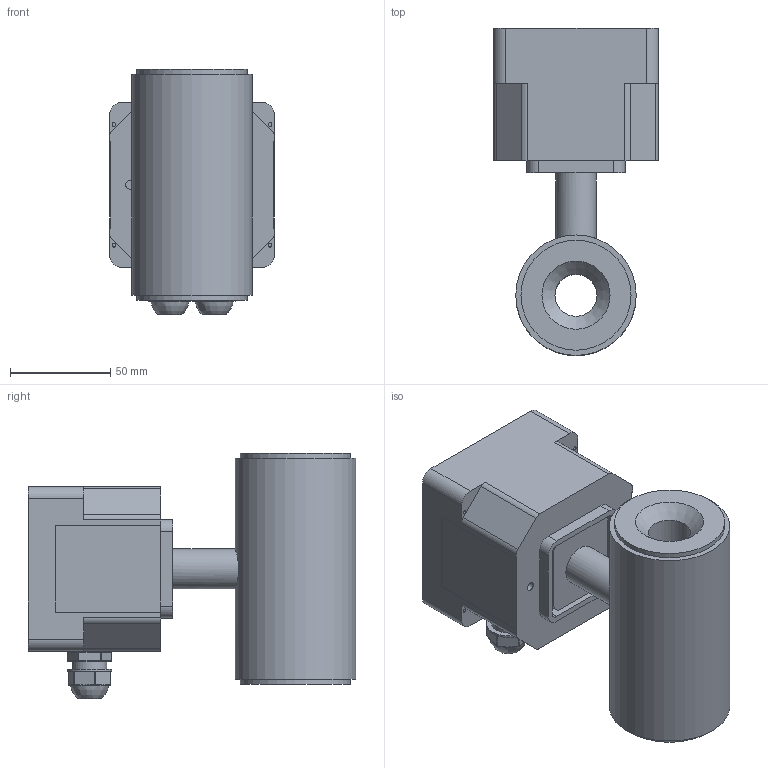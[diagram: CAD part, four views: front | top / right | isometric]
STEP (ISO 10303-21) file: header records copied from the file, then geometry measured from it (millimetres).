
FILE_DESCRIPTION(/* description */ (''),/* implementation_level */ '2;1');
FILE_NAME(/* name */ 'C:\ТЭК\Реклама\ПРЭМ-20S.stp',/* time_stamp */ '2020-01-24T16:01:59+03:00',/* author */ ('Kishalov.m'),/* organization */ (''),/* preprocessor_version */ 'ST-DEVELOPER v18',/* originating_system */ 'Autodesk Inventor 2020',/* authorisation */ '');
FILE_SCHEMA (('AUTOMOTIVE_DESIGN { 1 0 10303 214 3 1 1 }'));
Length unit declared in the file: millimetre
Products named in the file (1): 8
Bounding box: 82 x 163 x 122.1 mm (x, y, z)
Volume: 455383.2 mm3; surface area: 118958.8 mm2
Topology: 4 solids, 4 shells, 1981 faces, 5161 edges, 3276 vertices
Faces by surface type: plane 1201, bspline 449, cylinder 255, sphere 60, cone 14, torus 2
Full cylindrical faces by diameter (mm): 0.431 x1, 0.546 x1, 1.159 x2, 1.5 x2, 1.7 x4, 1.8 x8, 2.5 x4, 3.242 x4, 4.2 x1, 4.5 x4, 5.472 x1, 5.5 x3, 7.5 x4, 8.5 x4, 8.6 x2, 11 x8, 12 x2, 13 x2, 17 x6, 19.094 x2, 20 x1, 21 x1, 52 x2, 54.8 x4, 60 x1
Entity records: 68117 total; most frequent: CARTESIAN_POINT 20503, ORIENTED_EDGE 10150, DIRECTION 7874, EDGE_CURVE 5075, LINE 3580, VECTOR 3580, VERTEX_POINT 3276, EDGE_LOOP 2186
